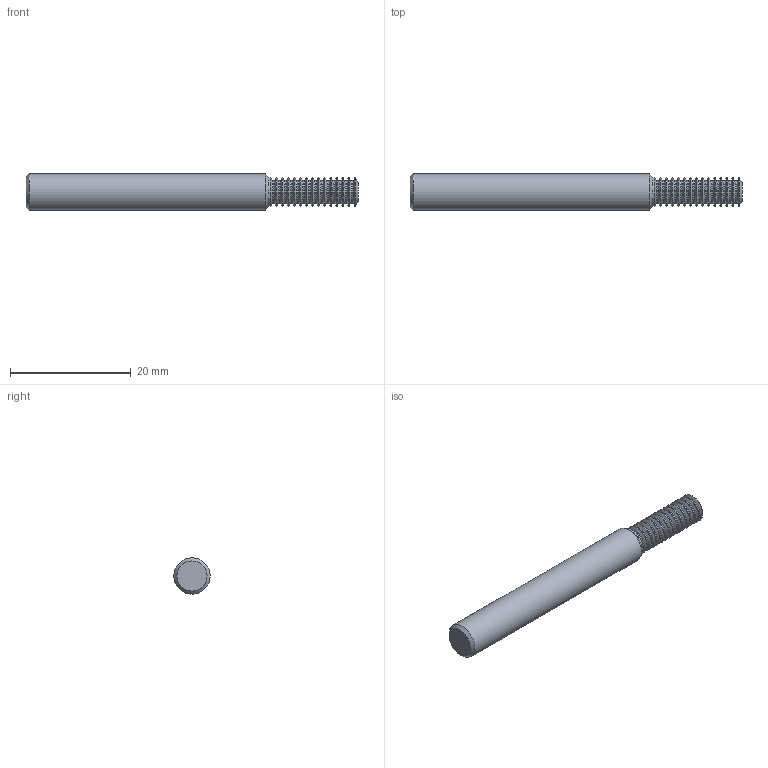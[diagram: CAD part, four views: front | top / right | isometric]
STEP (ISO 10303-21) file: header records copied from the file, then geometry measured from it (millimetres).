
FILE_DESCRIPTION(/* description */ (''),/* implementation_level */ '2;1');
FILE_NAME(/* name */ '00030822-TDM',/* time_stamp */ '2024-02-09T08:56:57+01:00',/* author */ (''),/* organization */ (''),/* preprocessor_version */ 'ST-DEVELOPER v16.5',/* originating_system */ 'HiCAD 2017 2201.0 Build 268',/* authorisation */ '');
FILE_SCHEMA (('AUTOMOTIVE_DESIGN { 1 0 10303 214 1 1 1 1 }'));
Length unit declared in the file: millimetre
Products named in the file (3): Root; ROTATIONSTEIL_0
Assembly tree (2 placements, depth 3):
  Root
    ROTATIONSTEIL_0
      ROTATIONSTEIL_0
Bounding box: 55 x 6 x 6 mm (x, y, z)
Volume: 1331.8 mm3; surface area: 1135.8 mm2
Topology: 2 solids, 2 shells, 93 faces, 180 edges, 91 vertices
Faces by surface type: cone 31, cylinder 30, torus 28, plane 4
Full cylindrical faces by diameter (mm): 3.732 x14, 4.8 x15, 6 x1
Entity records: 2814 total; most frequent: DIRECTION 376, CARTESIAN_POINT 279, AXIS2_PLACEMENT_3D 188, PRESENTATION_STYLE_ASSIGNMENT 184, COLOUR_RGB 184, DRAUGHTING_PRE_DEFINED_CURVE_FONT 182, CURVE_STYLE 182, OVER_RIDING_STYLED_ITEM 182
